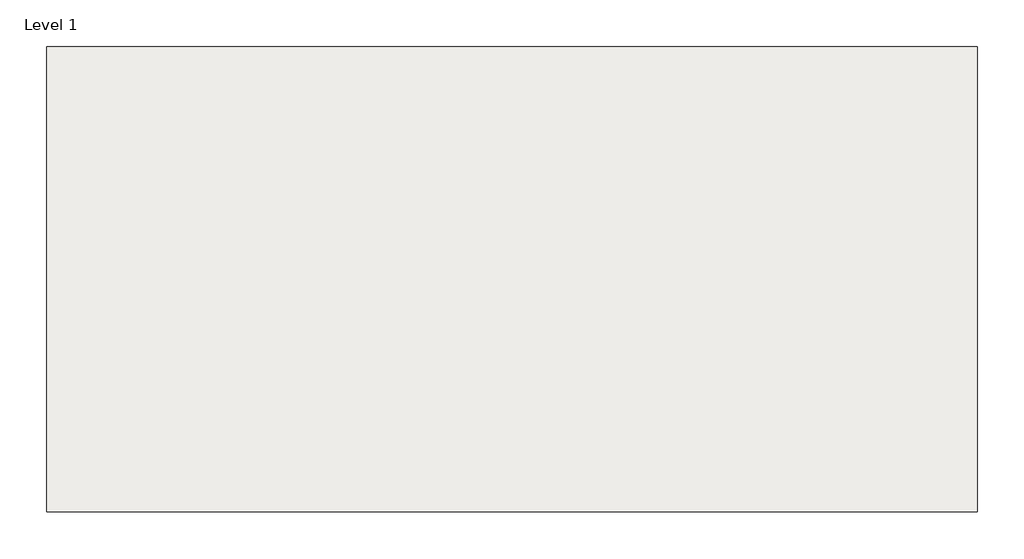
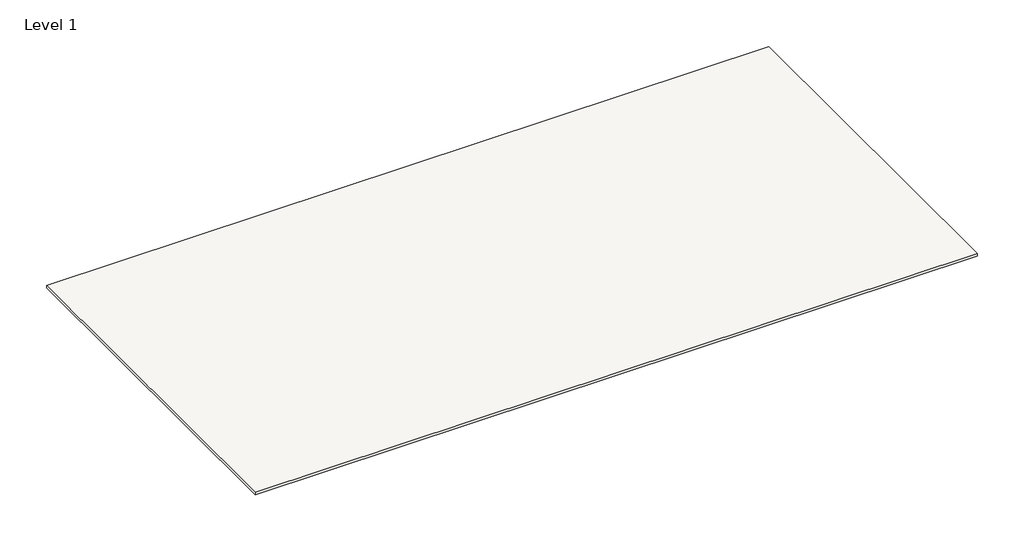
# One storey: 1 slab.
"""IFC4 building model written with IfcOpenShell, lengths in millimetres."""

import ifcopenshell
import ifcopenshell.guid

model = None  # the IFC model being written
_history = None  # IfcOwnerHistory: only IFC2X3 demands one
_inside = {}  # id of a spatial element -> (the spatial element, [elements in it])
_under = {}  # id of a project, library or spatial element -> (it, [spatial elements below it])
_declared = {}  # id of a project -> (the project, [libraries it declares])
_typed = {}  # id of a type object -> (the type object, [elements of that type])
_made_of = {}  # id of a material, layer set ... -> (it, [elements and type objects made of it])


def new_model(schema):
    """Start an empty IFC model of exactly this schema.

    Asked for "IFC4X3", IfcOpenShell would pick the latest addendum, in which some entities
    have other attributes; the version numbers below select the first issue.
    IFC2X3 requires an IfcOwnerHistory on every rooted entity: one is made here for all.
    """
    global model, _history
    if schema == "IFC4X3":
        model = ifcopenshell.file(schema_version=(4, 3, 0, 0))
    else:
        model = ifcopenshell.file(schema=schema)
    _inside.clear()
    _under.clear()
    _declared.clear()
    _typed.clear()
    _made_of.clear()
    _history = None
    if model.schema == "IFC2X3":
        org = make("IfcOrganization", Name="unknown")
        user = make(
            "IfcPersonAndOrganization",
            ThePerson=make("IfcPerson", FamilyName="unknown"),
            TheOrganization=org,
        )
        app = make(
            "IfcApplication",
            ApplicationDeveloper=org,
            Version="unknown",
            ApplicationFullName="unknown",
            ApplicationIdentifier="unknown",
        )
        _history = make(
            "IfcOwnerHistory",
            OwningUser=user,
            OwningApplication=app,
            ChangeAction="ADDED",
            CreationDate=0,
        )
    return model


def make(cls, **values):
    """One entity of the class cls with the attributes given. An attribute that is None is left unset."""
    return model.create_entity(
        cls, **{name: value for name, value in values.items() if value is not None}
    )


def rooted(cls, **values):
    """An entity with a GlobalId (a new one), such as an element, a storey or a relation."""
    return make(cls, GlobalId=ifcopenshell.guid.new(), OwnerHistory=_history, **values)


def si_unit(unit_type, name, prefix=None):
    """IfcSIUnit, for example si_unit("LENGTHUNIT", "METRE", prefix="MILLI")."""
    return make("IfcSIUnit", UnitType=unit_type, Prefix=prefix, Name=name)


def assignment(units):
    """IfcUnitAssignment: the units of a project."""
    return None if units is None else make("IfcUnitAssignment", Units=units)


def point(xyz):
    """IfcCartesianPoint."""
    return None if xyz is None else make("IfcCartesianPoint", Coordinates=xyz)


def direction(xyz):
    """IfcDirection."""
    return None if xyz is None else make("IfcDirection", DirectionRatios=xyz)


def frame(location, z_axis=None, x_axis=None):
    """IfcAxis2Placement3D, a coordinate frame: its origin and axes. An axis left out is left unset."""
    return make(
        "IfcAxis2Placement3D",
        Location=point(location),
        Axis=direction(z_axis),
        RefDirection=direction(x_axis),
    )


def origin():
    """The frame at (0, 0, 0) with its axes left unset."""
    return frame((0.0, 0.0, 0.0))


def place(relative_to, where):
    """IfcLocalPlacement: puts the frame where relative to a parent placement (None: the world)."""
    return make(
        "IfcLocalPlacement", PlacementRelTo=relative_to, RelativePlacement=where
    )


def context(
    kind, dimensions, precision=None, world=None, true_north=None, identifier=None
):
    """IfcGeometricRepresentationContext, for example the 3D "Model" context."""
    return make(
        "IfcGeometricRepresentationContext",
        ContextIdentifier=identifier,
        ContextType=kind,
        CoordinateSpaceDimension=dimensions,
        Precision=precision,
        WorldCoordinateSystem=world,
        TrueNorth=true_north,
    )


def project(units=None, contexts=None):
    """IfcProject with its units and contexts."""
    return rooted(
        "IfcProject",
        Name="project",
        RepresentationContexts=contexts,
        UnitsInContext=assignment(units),
    )


def spatial(cls, under=None, at=None, **own):
    """A site, building, storey or space (cls), placed at a placement, below another one or the project."""
    s = rooted(cls, ObjectPlacement=at, **own)
    if under is not None:
        _under.setdefault(under.id(), (under, []))[1].append(s)
    return s


def polyline(points):
    """IfcPolyline through the points."""
    return make("IfcPolyline", Points=[point(p) for p in points])


def outline(outer, holes=None, kind="AREA"):
    """IfcArbitraryClosedProfileDef: a profile drawn as a closed curve; with holes, ...WithVoids."""
    if holes is None:
        return make("IfcArbitraryClosedProfileDef", ProfileType=kind, OuterCurve=outer)
    return make(
        "IfcArbitraryProfileDefWithVoids",
        ProfileType=kind,
        OuterCurve=outer,
        InnerCurves=holes,
    )


def extrude(swept, where, along, depth):
    """IfcExtrudedAreaSolid: the profile swept, set in the frame where, extruded along a direction by depth."""
    return make(
        "IfcExtrudedAreaSolid",
        SweptArea=swept,
        Position=where,
        ExtrudedDirection=direction(along),
        Depth=depth,
    )


def shape(context_of_items, identifier, shape_type, items):
    """IfcShapeRepresentation: the items that make up one representation, for example the "Body"."""
    return make(
        "IfcShapeRepresentation",
        ContextOfItems=context_of_items,
        RepresentationIdentifier=identifier,
        RepresentationType=shape_type,
        Items=items,
    )


def made_of(thing, what):
    """Note that an element or type object is made of a material, layer set ...; save() writes the relation."""
    if what is not None:
        _made_of.setdefault(what.id(), (what, []))[1].append(thing)
    return thing


def element(
    cls,
    number,
    at=None,
    inside=None,
    cuts=None,
    type_object=None,
    material=None,
    context=None,
    identifier="Body",
    shape_type=None,
    held_by="IfcProductDefinitionShape",
    body=None,
    shapes=None,
    **own,
):
    """One element of the class cls, such as IfcWall. Its Tag is "e" and its number.

    at: its placement. inside: the storey or other place that contains it. cuts: it is an
    opening in that element (IfcRelVoidsElement). A single representation is given by context,
    identifier, shape_type and body (its items); several are given by shapes. held_by: the class
    of the entity that holds the representations. save() writes the other relations.
    """
    e = rooted(cls, Tag="e%d" % number, ObjectPlacement=at, **own)
    if body is not None:
        shapes = [shape(context, identifier, shape_type, body)]
    if shapes is not None:
        e.Representation = make(held_by, Representations=shapes)
    if inside is not None:
        _inside.setdefault(inside.id(), (inside, []))[1].append(e)
    if cuts is not None:
        rooted(
            "IfcRelVoidsElement", RelatingBuildingElement=cuts, RelatedOpeningElement=e
        )
    if type_object is not None:
        _typed.setdefault(type_object.id(), (type_object, []))[1].append(e)
    return made_of(e, material)


def aggregate(whole, parts):
    """IfcRelAggregates: a whole, such as a stair, and the parts it consists of."""
    return rooted("IfcRelAggregates", RelatingObject=whole, RelatedObjects=parts)


def save(model, path):
    """Write the relations noted so far, then the file.

    IfcRelAggregates (storeys below a building ...), IfcRelContainedInSpatialStructure (elements
    in a storey), IfcRelDefinesByType, IfcRelAssociatesMaterial and IfcRelDeclares: one each for
    every whole, place, type object, material and project.
    """
    for whole, parts in _under.values():
        aggregate(whole, parts)
    for where, things in _inside.values():
        rooted(
            "IfcRelContainedInSpatialStructure",
            RelatedElements=things,
            RelatingStructure=where,
        )
    for kind, things in _typed.values():
        rooted("IfcRelDefinesByType", RelatedObjects=things, RelatingType=kind)
    for what, things in _made_of.values():
        rooted("IfcRelAssociatesMaterial", RelatedObjects=things, RelatingMaterial=what)
    for by, libraries in _declared.values():
        rooted("IfcRelDeclares", RelatingContext=by, RelatedDefinitions=libraries)
    model.write(path)


model = new_model("IFC4")

# Units and contexts
model_context = context("Model", 3, world=origin())
ifc_project = project(units=[si_unit("LENGTHUNIT", "METRE", prefix="MILLI")], contexts=[model_context])

# Site, building, storey
site = spatial("IfcSite", under=ifc_project)
building = spatial("IfcBuilding", under=site)
storey = spatial("IfcBuildingStorey", under=building, Name="Level 1", Elevation=0.0)

# Slab
placement = place(None, origin())
element("IfcSlab", 1, ObjectType="510 - Imperia - 12mm", at=placement, inside=storey, context=model_context, shape_type="SweptSolid", body=[
    extrude(outline(polyline([(3805.9071773, 6155.1148565), (7005.9071773, 6155.1148565), (7005.9071773, 4555.1148565), (3805.9071773, 4555.1148565), (3805.9071773, 6155.1148565)])), frame((0.0, 0.0, -12.0), z_axis=(0.0, 0.0, 1.0), x_axis=(1.0, 0.0, 0.0)), (0.0, 0.0, 1.0), 12.0),
])

save(model, "model.ifc")
